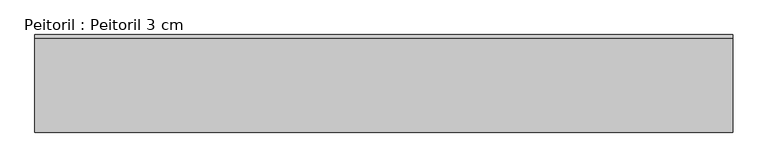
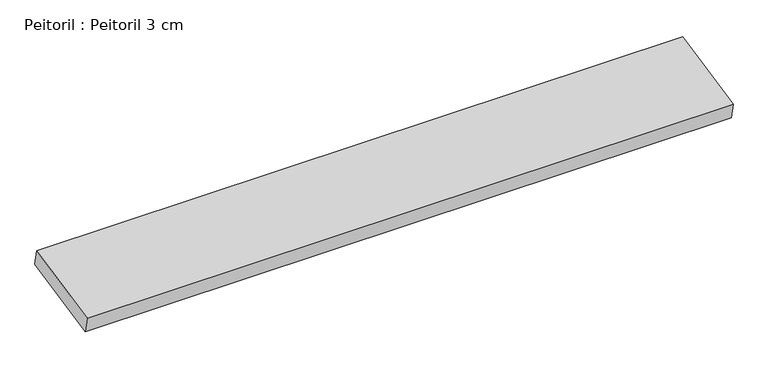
"""IFC4 building model written with IfcOpenShell, lengths in millimetres: proxy geometry, Peitoril : Peitoril 3 cm."""

from ifc_helpers import new_model, si_unit, frame, origin, place, context, project, spatial, polyline, outline, extrude, source, transform, mapped, element, save


def peitoril_peitoril_3_cm_b809ef5a(model_context):
    return source(origin(), model_context, "Body", "SweptSolid", [
        extrude(outline(polyline([(0.0, 158.0245115), (1150.0, 158.0245115), (1150.0, 0.0), (0.0, 0.0), (0.0, 158.0245115)])), frame((736.81445, 32.3195188, 880.655572), z_axis=(0.0, -0.20791169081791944, 0.9781476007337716), x_axis=(-1.0, 0.0, 0.0)), (0.0, 0.0, 1.0), 30.0),
    ])


if __name__ == "__main__":
    model = new_model("IFC4")
    model_context = context("Model", 3, world=origin())
    ifc_project = project(units=[si_unit("LENGTHUNIT", "METRE", prefix="MILLI")], contexts=[model_context])
    site = spatial("IfcSite", under=ifc_project)
    building = spatial("IfcBuilding", under=site)
    placement = place(None, origin())
    peitoril_peitoril_3_cm_shape = peitoril_peitoril_3_cm_b809ef5a(model_context)
    element("IfcBuildingElementProxy", 1, Name="Peitoril : Peitoril 3 cm", ObjectType="Peitoril : Peitoril 3 cm", at=placement, inside=building, context=model_context, shape_type="MappedRepresentation", body=[
        mapped(peitoril_peitoril_3_cm_shape, transform((0.0, 0.0, 0.0), x_axis=(1.0, 0.0, 0.0), y_axis=(0.0, 1.0, 0.0), z_axis=(0.0, 0.0, 1.0))),
    ])
    save(model, "model.ifc")
